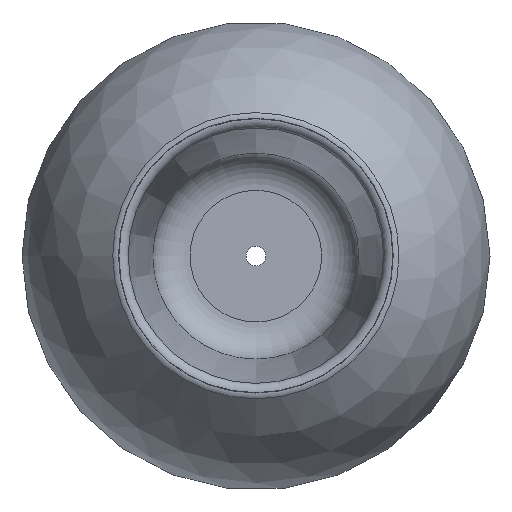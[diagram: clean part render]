
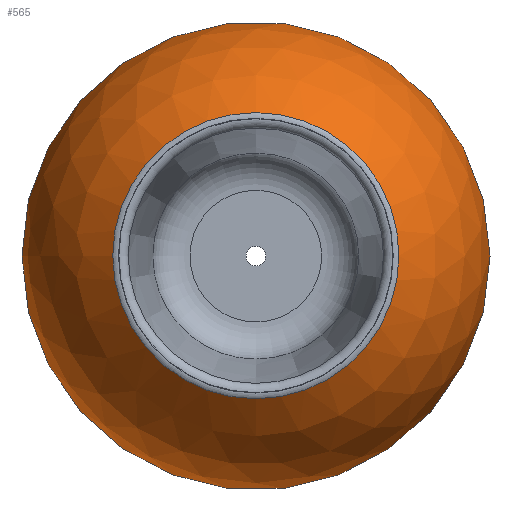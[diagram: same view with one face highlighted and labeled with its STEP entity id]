
A CAD part, top view. The second image highlights one B-rep face of the part: STEP entity #565.
In plain terms, the highlighted spherical face has radius 125.122 mm.
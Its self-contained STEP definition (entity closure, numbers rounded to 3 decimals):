
#26=SPHERICAL_SURFACE('',#676,125.122);
#65=FACE_OUTER_BOUND('',#95,.T.);
#95=EDGE_LOOP('',(#498,#499,#500,#501,#502,#503));
#185=CIRCLE('',#674,32.29);
#186=CIRCLE('',#675,32.29);
#187=CIRCLE('',#677,76.444);
#188=CIRCLE('',#678,76.444);
#189=CIRCLE('',#679,125.122);
#256=VERTEX_POINT('',#1071);
#257=VERTEX_POINT('',#1073);
#258=VERTEX_POINT('',#1077);
#259=VERTEX_POINT('',#1078);
#341=EDGE_CURVE('',#257,#256,#185,.T.);
#342=EDGE_CURVE('',#256,#257,#186,.T.);
#343=EDGE_CURVE('',#258,#259,#187,.T.);
#344=EDGE_CURVE('',#259,#258,#188,.T.);
#345=EDGE_CURVE('',#259,#256,#189,.T.);
#498=ORIENTED_EDGE('',*,*,#343,.F.);
#499=ORIENTED_EDGE('',*,*,#344,.F.);
#500=ORIENTED_EDGE('',*,*,#345,.T.);
#501=ORIENTED_EDGE('',*,*,#342,.T.);
#502=ORIENTED_EDGE('',*,*,#341,.T.);
#503=ORIENTED_EDGE('',*,*,#345,.F.);
#565=ADVANCED_FACE('',(#65),#26,.T.);
#674=AXIS2_PLACEMENT_3D('',#1074,#874,#875);
#675=AXIS2_PLACEMENT_3D('',#1075,#876,#877);
#676=AXIS2_PLACEMENT_3D('',#1076,#878,#879);
#677=AXIS2_PLACEMENT_3D('',#1079,#880,#881);
#678=AXIS2_PLACEMENT_3D('',#1080,#882,#883);
#679=AXIS2_PLACEMENT_3D('',#1081,#884,#885);
#874=DIRECTION('center_axis',(0.,0.,1.));
#875=DIRECTION('ref_axis',(1.,0.,0.));
#876=DIRECTION('center_axis',(0.,0.,1.));
#877=DIRECTION('ref_axis',(1.,0.,0.));
#878=DIRECTION('center_axis',(0.,0.,1.));
#879=DIRECTION('ref_axis',(1.,0.,0.));
#880=DIRECTION('center_axis',(0.,0.,1.));
#881=DIRECTION('ref_axis',(1.,0.,0.));
#882=DIRECTION('center_axis',(0.,0.,1.));
#883=DIRECTION('ref_axis',(1.,0.,0.));
#884=DIRECTION('center_axis',(0.,-1.,0.));
#885=DIRECTION('ref_axis',(-1.,0.,0.));
#1071=CARTESIAN_POINT('',(-32.29,177.56,267.371));
#1073=CARTESIAN_POINT('',(0.,145.271,267.371));
#1074=CARTESIAN_POINT('Origin',(0.,177.56,267.371));
#1075=CARTESIAN_POINT('Origin',(0.,177.56,267.371));
#1076=CARTESIAN_POINT('Origin',(0.,177.56,388.255));
#1077=CARTESIAN_POINT('',(0.,101.117,487.31));
#1078=CARTESIAN_POINT('',(-76.444,177.56,487.31));
#1079=CARTESIAN_POINT('Origin',(0.,177.56,487.31));
#1080=CARTESIAN_POINT('Origin',(0.,177.56,487.31));
#1081=CARTESIAN_POINT('Origin',(0.,177.56,388.255));
